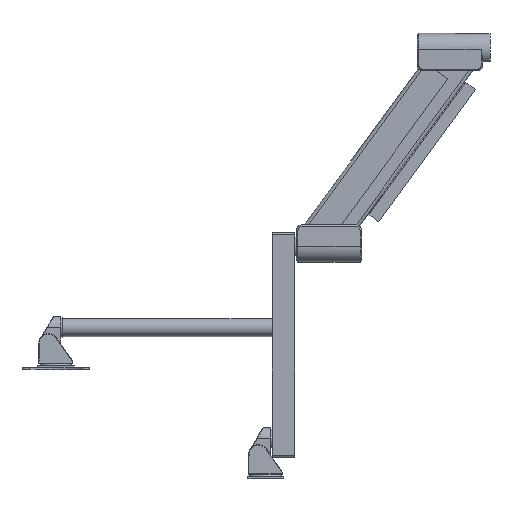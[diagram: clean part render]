
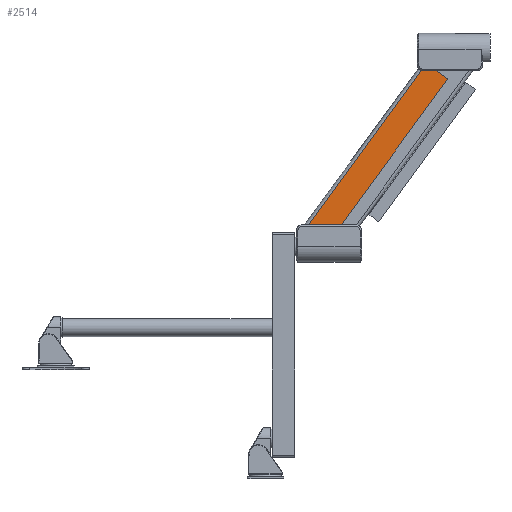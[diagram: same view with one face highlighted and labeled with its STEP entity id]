
A CAD part, left-side view. The second image highlights one B-rep face of the part: STEP entity #2514.
In plain terms, the highlighted planar face has unit normal (-1, 0, 0).
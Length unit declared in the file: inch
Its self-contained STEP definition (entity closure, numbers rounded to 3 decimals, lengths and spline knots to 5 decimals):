
#2162=CARTESIAN_POINT('',(-0.72096,0.77129,-7.02675));
#2163=VERTEX_POINT('',#2162);
#2164=CARTESIAN_POINT('',(-0.72096,0.62352,-7.625));
#2165=VERTEX_POINT('',#2164);
#2166=CARTESIAN_POINT('',(-0.72096,0.89629,-7.375));
#2167=DIRECTION('',(1.0,0.0,0.0));
#2168=DIRECTION('',(0.0,-1.0,0.0));
#2169=AXIS2_PLACEMENT_3D('',#2166,#2167,#2168);
#2170=CIRCLE('',#2169,0.37);
#2171=EDGE_CURVE('',#2163,#2165,#2170,.T.);
#2274=CARTESIAN_POINT('',(-0.72096,0.62352,6.625));
#2275=VERTEX_POINT('',#2274);
#2276=CARTESIAN_POINT('',(-0.72096,0.77129,6.02675));
#2277=VERTEX_POINT('',#2276);
#2278=CARTESIAN_POINT('',(-0.72096,0.89629,6.375));
#2279=DIRECTION('',(1.0,0.0,0.0));
#2280=DIRECTION('',(0.0,-1.0,0.0));
#2281=AXIS2_PLACEMENT_3D('',#2278,#2279,#2280);
#2282=CIRCLE('',#2281,0.37);
#2283=EDGE_CURVE('',#2275,#2277,#2282,.T.);
#2404=CARTESIAN_POINT('',(-0.72096,0.77129,-7.02675));
#2405=DIRECTION('',(0.0,0.0,1.0));
#2406=VECTOR('',#2405,13.05351);
#2407=LINE('',#2404,#2406);
#2408=EDGE_CURVE('',#2163,#2277,#2407,.T.);
#2421=CARTESIAN_POINT('',(-0.72096,-1.00129,6.625));
#2422=VERTEX_POINT('',#2421);
#2423=CARTESIAN_POINT('',(-0.72096,-1.00129,6.625));
#2424=DIRECTION('',(0.0,1.0,0.0));
#2425=VECTOR('',#2424,1.62481);
#2426=LINE('',#2423,#2425);
#2427=EDGE_CURVE('',#2422,#2275,#2426,.T.);
#2478=CARTESIAN_POINT('',(-0.72096,-1.00129,-7.625));
#2479=VERTEX_POINT('',#2478);
#2480=CARTESIAN_POINT('',(-0.72096,-1.00129,-7.625));
#2481=DIRECTION('',(0.0,0.0,1.0));
#2482=VECTOR('',#2481,14.25);
#2483=LINE('',#2480,#2482);
#2484=EDGE_CURVE('',#2479,#2422,#2483,.T.);
#2496=CARTESIAN_POINT('',(-0.72096,-1.00129,-7.625));
#2497=DIRECTION('',(-1.0,0.0,0.0));
#2498=DIRECTION('',(0.0,0.0,1.0));
#2499=AXIS2_PLACEMENT_3D('',#2496,#2497,#2498);
#2500=PLANE('',#2499);
#2501=ORIENTED_EDGE('',*,*,#2171,.T.);
#2502=CARTESIAN_POINT('',(-0.72096,0.62352,-7.625));
#2503=DIRECTION('',(0.0,-1.0,0.0));
#2504=VECTOR('',#2503,1.62481);
#2505=LINE('',#2502,#2504);
#2506=EDGE_CURVE('',#2165,#2479,#2505,.T.);
#2507=ORIENTED_EDGE('',*,*,#2506,.T.);
#2508=ORIENTED_EDGE('',*,*,#2484,.T.);
#2509=ORIENTED_EDGE('',*,*,#2427,.T.);
#2510=ORIENTED_EDGE('',*,*,#2283,.T.);
#2511=ORIENTED_EDGE('',*,*,#2408,.F.);
#2512=EDGE_LOOP('',(#2501,#2507,#2508,#2509,#2510,#2511));
#2513=FACE_OUTER_BOUND('',#2512,.T.);
#2514=ADVANCED_FACE('',(#2513),#2500,.T.);
